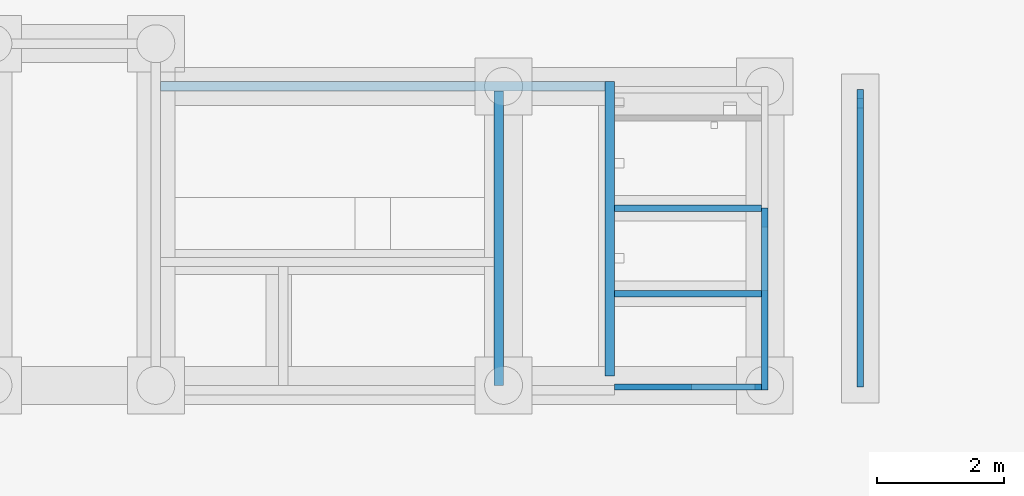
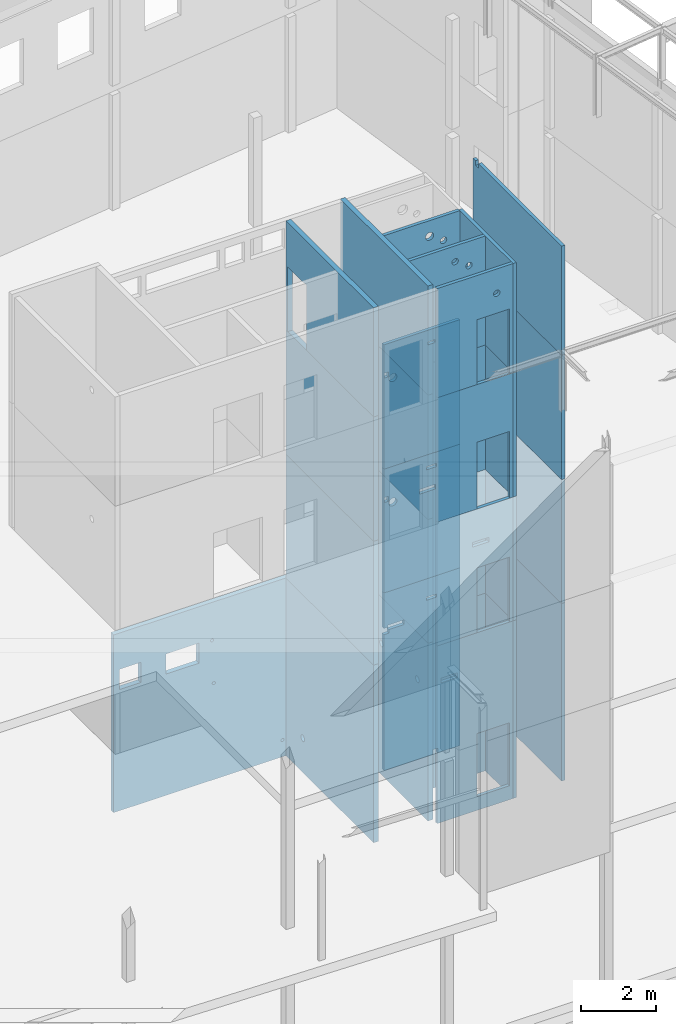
# One storey, part 75 of 82: 29 walls.
"""IFC2X3 building model written with IfcOpenShell, lengths in millimetres."""

from ifc_helpers import new_model, si_unit, frame, frame_2d, origin_with_axes, place, context, subcontext, project, spatial, polyline, rectangle, circle, outline, extrude, boolean, material, layer, layer_set, layer_usage, type_object, element, save


model = new_model("IFC2X3")

# Units and contexts
model_context = context("Model", 3, precision=1e-05, world=origin_with_axes())
body_context = subcontext(model_context, "Body", "Model", "MODEL_VIEW")
ifc_project = project(units=[si_unit("LENGTHUNIT", "METRE", prefix="MILLI"), si_unit("AREAUNIT", "SQUARE_METRE"), si_unit("VOLUMEUNIT", "CUBIC_METRE"), si_unit("MASSUNIT", "GRAM", prefix="KILO"), si_unit("TIMEUNIT", "SECOND"), si_unit("PLANEANGLEUNIT", "RADIAN"), si_unit("SOLIDANGLEUNIT", "STERADIAN"), si_unit("THERMODYNAMICTEMPERATUREUNIT", "DEGREE_CELSIUS"), si_unit("LUMINOUSINTENSITYUNIT", "LUMEN")], contexts=[model_context])

# Site, building, storey
site_placement = place(None, origin_with_axes())
site = spatial("IfcSite", under=ifc_project, at=site_placement, Name="Undefined", CompositionType="ELEMENT")
building_placement = place(site_placement, origin_with_axes())
building = spatial("IfcBuilding", under=site, at=building_placement, Name="Undefined", CompositionType="ELEMENT")
storey_placement = place(building_placement, origin_with_axes())
storey = spatial("IfcBuildingStorey", under=building, at=storey_placement, Name="Undefined", CompositionType="ELEMENT", Elevation=0.0)

# Walls
ifc_material = material(Name="CONCRETE/C25/30")
ifc_layer_1 = layer(ifc_material, 150.0)
ifc_layer_set_1 = layer_set([ifc_layer_1], Name="Wall: Insitu CONCRETE/C25/30")
ifc_layer_usage_1 = layer_usage(ifc_layer_set_1, "AXIS2", "POSITIVE", -75.0)
wall_type_1 = type_object("IfcWallType", Name="4025*150", PredefinedType="NOTDEFINED")
wall_1_placement = place(storey_placement, frame((56924.9999999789, 14099.9999999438, 9305.0), z_axis=(0.0, 0.0, 1.0), x_axis=(-2.77555756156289e-17, -1.0, 0.0)))
element("IfcWallStandardCase", 1, at=wall_1_placement, inside=storey, type_object=wall_type_1, material=ifc_layer_usage_1, Name="VOILE_15CM", ObjectType="4025*150", context=body_context, shape_type="SweptSolid", body=[
    extrude(rectangle(XDim=4649.99999996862, YDim=150.0, at=frame_2d((0.0, 2324.99999998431), x_axis=(0.0, -1.0))), frame((0.0, 0.0, 0.0), z_axis=(0.0, 0.0, 1.0), x_axis=(-2.77555756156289e-17, -1.0, 0.0)), (0.0, 0.0, 1.0), 4025.0),
])
ifc_layer_usage_2 = layer_usage(ifc_layer_set_1, "AXIS2", "POSITIVE", -75.0)
wall_2_placement = place(storey_placement, frame((55171.3765564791, 13949.9999999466, 9305.0), z_axis=(0.0, 0.0, 1.0), x_axis=(-2.77555756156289e-17, -1.0, 0.0)))
element("IfcWallStandardCase", 2, at=wall_2_placement, inside=storey, type_object=wall_type_1, material=ifc_layer_usage_2, Name="VOILE_15CM", ObjectType="4025*150", context=body_context, shape_type="SweptSolid", body=[
    extrude(rectangle(XDim=4649.99999996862, YDim=150.0, at=frame_2d((0.0, 2324.99999998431), x_axis=(0.0, -1.0))), frame((0.0, 0.0, 0.0), z_axis=(0.0, 0.0, 1.0), x_axis=(-2.77555756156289e-17, -1.0, 0.0)), (0.0, 0.0, 1.0), 4025.0),
])
ifc_layer_usage_3 = layer_usage(ifc_layer_set_1, "AXIS2", "POSITIVE", -75.0)
wall_type_2 = type_object("IfcWallType", Name="4005*150", PredefinedType="NOTDEFINED")
wall_3_placement = place(storey_placement, frame((56924.9999999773, 14099.9999999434, 5300.0), z_axis=(0.0, 0.0, 1.0), x_axis=(-2.77555756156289e-17, -1.0, 0.0)))
element("IfcWallStandardCase", 3, at=wall_3_placement, inside=storey, type_object=wall_type_2, material=ifc_layer_usage_3, Name="VOILE_15CM", ObjectType="4005*150", context=body_context, shape_type="SweptSolid", body=[
    extrude(rectangle(XDim=4649.99999996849, YDim=150.0, at=frame_2d((0.0, 2324.99999998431), x_axis=(0.0, -1.0))), frame((0.0, 0.0, 0.0), z_axis=(0.0, 0.0, 1.0), x_axis=(-2.77555756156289e-17, -1.0, 0.0)), (0.0, 0.0, 1.0), 4005.0),
])
ifc_layer_usage_4 = layer_usage(ifc_layer_set_1, "AXIS2", "POSITIVE", -75.0)
wall_4_placement = place(storey_placement, frame((55171.3765564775, 13949.9999999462, 5300.0), z_axis=(0.0, 0.0, 1.0), x_axis=(-2.77555756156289e-17, -1.0, 0.0)))
element("IfcWallStandardCase", 4, at=wall_4_placement, inside=storey, type_object=wall_type_2, material=ifc_layer_usage_4, Name="VOILE_15CM", ObjectType="4005*150", context=body_context, shape_type="SweptSolid", body=[
    extrude(rectangle(XDim=4649.99999996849, YDim=150.0, at=frame_2d((0.0, 2324.99999998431), x_axis=(0.0, -1.0))), frame((0.0, 0.0, 0.0), z_axis=(0.0, 0.0, 1.0), x_axis=(-2.77555756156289e-17, -1.0, 0.0)), (0.0, 0.0, 1.0), 4005.0),
])
ifc_layer_usage_5 = layer_usage(ifc_layer_set_1, "AXIS2", "POSITIVE", -75.0)
wall_type_3 = type_object("IfcWallType", Name="3530*150", PredefinedType="NOTDEFINED")
wall_5_placement = place(storey_placement, frame((56924.9999999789, 14099.9999999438, 13330.0), z_axis=(0.0, 0.0, 1.0), x_axis=(-2.77555756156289e-17, -1.0, 0.0)))
element("IfcWallStandardCase", 5, at=wall_5_placement, inside=storey, type_object=wall_type_3, material=ifc_layer_usage_5, Name="VOILE_15CM", ObjectType="3530*150", context=body_context, shape_type="SweptSolid", body=[
    extrude(rectangle(XDim=4649.99999996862, YDim=150.0, at=frame_2d((0.0, 2324.99999998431), x_axis=(0.0, -1.0))), frame((0.0, 0.0, 0.0), z_axis=(0.0, 0.0, 1.0), x_axis=(-2.77555756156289e-17, -1.0, 0.0)), (0.0, 0.0, 1.0), 3530.0),
])
ifc_layer_usage_6 = layer_usage(ifc_layer_set_1, "AXIS2", "POSITIVE", -75.0)
wall_6_placement = place(storey_placement, frame((55171.3765564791, 13949.9999999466, 13330.0), z_axis=(0.0, 0.0, 1.0), x_axis=(-2.77555756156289e-17, -1.0, 0.0)))
element("IfcWallStandardCase", 6, at=wall_6_placement, inside=storey, type_object=wall_type_3, material=ifc_layer_usage_6, Name="VOILE_15CM", ObjectType="3530*150", context=body_context, shape_type="CSG", body=[
    boolean("DIFFERENCE", extrude(rectangle(XDim=4649.99999996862, YDim=150.0, at=frame_2d((0.0, 2324.99999998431), x_axis=(0.0, -1.0))), frame((0.0, 0.0, 0.0), z_axis=(0.0, 0.0, 1.0), x_axis=(-2.77555756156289e-17, -1.0, 0.0)), (0.0, 0.0, 1.0), 3530.0), extrude(outline(polyline([(5.17284206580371e-08, 4.49290382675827e-10), (2100.0, 5.82076609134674e-11), (2100.0, 1000.00000000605), (0.0, 1000.00000000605), (5.17284206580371e-08, 4.49290382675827e-10)])), frame((100.000034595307, 84.9999999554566, 2100.0), z_axis=(-2.77555756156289e-17, -1.0, 0.0), x_axis=(0.0, -6.50000002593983e-08, -0.999999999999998)), (0.0, 0.0, 1.0), 170.0)),
])
ifc_layer_2 = layer(ifc_material, 100.0)
ifc_layer_set_2 = layer_set([ifc_layer_2], Name="Wall: Insitu CONCRETE/C25/30")
ifc_layer_usage_7 = layer_usage(ifc_layer_set_2, "AXIS2", "POSITIVE", -50.0)
wall_type_4 = type_object("IfcWallType", Name="3530*100", PredefinedType="NOTDEFINED")
wall_7_placement = place(storey_placement, frame((56999.999999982, 12099.9999999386, 13330.0), z_axis=(0.0, 0.0, 1.0), x_axis=(1.0, 0.0, 0.0)))
element("IfcWallStandardCase", 7, at=wall_7_placement, inside=storey, type_object=wall_type_4, material=ifc_layer_usage_7, Name="VOILE_10CM", ObjectType="3530*100", context=body_context, shape_type="CSG", body=[
    boolean("DIFFERENCE", boolean("DIFFERENCE", extrude(rectangle(XDim=2324.99999997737, YDim=100.0, at=frame_2d((0.0, 1162.49999998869), x_axis=(0.0, -1.0))), frame((0.0, 0.0, 0.0), z_axis=(0.0, 0.0, 1.0), x_axis=(-2.77555756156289e-17, -1.0, 0.0)), (0.0, 0.0, 1.0), 3530.0), extrude(circle(Radius=100.0, at=frame_2d((5.17284206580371e-08, 4.49290382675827e-10), x_axis=(1.0, 0.0))), frame((1824.8916930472, -60.0, 2744.58053279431), z_axis=(0.0, 1.0, 0.0), x_axis=(-1.0, 0.0, 0.0)), (0.0, 0.0, 1.0), 120.0)), extrude(circle(Radius=125.0, at=frame_2d((5.17284206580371e-08, 4.49290382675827e-10), x_axis=(1.0, 0.0))), frame((1400.08319085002, -60.0, 3020.00167537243), z_axis=(0.0, 1.0, 0.0), x_axis=(-1.0, 0.0, 0.0)), (0.0, 0.0, 1.0), 120.0)),
])
ifc_layer_usage_8 = layer_usage(ifc_layer_set_2, "AXIS2", "POSITIVE", -50.0)
wall_8_placement = place(storey_placement, frame((56999.9999999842, 10749.4683793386, 13330.0), z_axis=(0.0, 0.0, 1.0), x_axis=(1.0, 0.0, 0.0)))
element("IfcWallStandardCase", 8, at=wall_8_placement, inside=storey, type_object=wall_type_4, material=ifc_layer_usage_8, Name="VOILE_10CM", ObjectType="3530*100", context=body_context, shape_type="CSG", body=[
    boolean("DIFFERENCE", boolean("DIFFERENCE", extrude(rectangle(XDim=2324.99999997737, YDim=100.0, at=frame_2d((0.0, 1162.49999998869), x_axis=(0.0, -1.0))), frame((0.0, 0.0, 0.0), z_axis=(0.0, 0.0, 1.0), x_axis=(-2.77555756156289e-17, -1.0, 0.0)), (0.0, 0.0, 1.0), 3530.0), extrude(circle(Radius=100.0, at=frame_2d((5.17284206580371e-08, 4.49290382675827e-10), x_axis=(1.0, 0.0))), frame((1400.08319085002, -60.0, 3020.00167537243), z_axis=(0.0, 1.0, 0.0), x_axis=(-1.0, 0.0, 0.0)), (0.0, 0.0, 1.0), 120.0)), extrude(circle(Radius=100.0, at=frame_2d((5.17284206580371e-08, 4.49290382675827e-10), x_axis=(1.0, 0.0))), frame((1824.8916930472, -60.0, 2744.58053279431), z_axis=(0.0, 1.0, 0.0), x_axis=(-1.0, 0.0, 0.0)), (0.0, 0.0, 1.0), 120.0)),
])
ifc_layer_usage_9 = layer_usage(ifc_layer_set_2, "AXIS2", "POSITIVE", -50.0)
wall_9_placement = place(storey_placement, frame((59324.9999999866, 9274.99999993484, 13330.0), z_axis=(0.0, 0.0, 1.0), x_axis=(-1.0, 0.0, 0.0)))
element("IfcWallStandardCase", 9, at=wall_9_placement, inside=storey, type_object=wall_type_4, material=ifc_layer_usage_9, Name="VOILE_10CM", ObjectType="3530*100", context=body_context, shape_type="CSG", body=[
    boolean("DIFFERENCE", boolean("DIFFERENCE", extrude(rectangle(XDim=2324.99999997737, YDim=100.0, at=frame_2d((0.0, 1162.49999998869), x_axis=(0.0, -1.0))), frame((0.0, 0.0, 0.0), z_axis=(0.0, 0.0, 1.0), x_axis=(-2.77555756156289e-17, -1.0, 0.0)), (0.0, 0.0, 1.0), 3530.0), extrude(circle(Radius=100.0, at=frame_2d((5.17284206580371e-08, 4.49290382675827e-10), x_axis=(1.0, 0.0))), frame((500.108306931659, -60.0, 2744.5804901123), z_axis=(0.0, 1.0, 0.0), x_axis=(-1.0, 0.0, 0.0)), (0.0, 0.0, 1.0), 120.0)), extrude(outline(polyline([(5.17284206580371e-08, 4.49290382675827e-10), (2100.0, 5.82076609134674e-11), (2100.0, 1000.00000000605), (0.0, 1000.00000000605), (5.17284206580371e-08, 4.49290382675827e-10)])), frame((1105.21800891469, -59.9999998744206, 2100.0), z_axis=(0.0, 1.0, 0.0), x_axis=(0.0, -6.50000002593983e-08, -0.999999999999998)), (0.0, 0.0, 1.0), 120.0)),
])
ifc_layer_usage_10 = layer_usage(ifc_layer_set_2, "AXIS2", "POSITIVE", -50.0)
wall_10_placement = place(storey_placement, frame((59374.9999999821, 12099.9998288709, 13330.0), z_axis=(0.0, 0.0, 1.0), x_axis=(-2.77555756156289e-17, -1.0, 0.0)))
element("IfcWallStandardCase", 10, at=wall_10_placement, inside=storey, type_object=wall_type_4, material=ifc_layer_usage_10, Name="VOILE_10CM", ObjectType="3530*100", context=body_context, shape_type="CSG", body=[
    boolean("DIFFERENCE", extrude(rectangle(XDim=2874.80300000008, YDim=100.0, at=frame_2d((0.0, 1437.40150000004), x_axis=(0.0, -1.0))), frame((0.0, 0.0, 0.0), z_axis=(0.0, 0.0, 1.0), x_axis=(-2.77555756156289e-17, -1.0, 0.0)), (0.0, 0.0, 1.0), 3530.0), extrude(outline(polyline([(5.17284206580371e-08, 4.49290382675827e-10), (2160.0, 1.09139364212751e-11), (2160.0, 1000.00000000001), (0.0, 1000.00000000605), (5.17284206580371e-08, 4.49290382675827e-10)])), frame((1300.53144970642, -60.0000000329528, 2160.0), z_axis=(0.0, 1.0, 0.0), x_axis=(0.0, -6.50000002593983e-08, -0.999999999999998)), (0.0, 0.0, 1.0), 120.0)),
])
ifc_layer_usage_11 = layer_usage(ifc_layer_set_2, "AXIS2", "POSITIVE", -50.0)
wall_11_placement = place(storey_placement, frame((60884.2827716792, 13974.9999999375, 13330.0), z_axis=(0.0, 0.0, 1.0), x_axis=(-2.77555756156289e-17, -1.0, 0.0)))
element("IfcWallStandardCase", 11, at=wall_11_placement, inside=storey, type_object=wall_type_4, material=ifc_layer_usage_11, Name="VOILE_10CM", ObjectType="3530*100", context=body_context, shape_type="CSG", body=[
    boolean("DIFFERENCE", extrude(rectangle(XDim=4700.00000000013, YDim=100.0, at=frame_2d((0.0, 2350.00000000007), x_axis=(0.0, -1.0))), frame((0.0, 0.0, 0.0), z_axis=(0.0, 0.0, 1.0), x_axis=(-2.77555756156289e-17, -1.0, 0.0)), (0.0, 0.0, 1.0), 3530.0), extrude(rectangle(XDim=150.0, YDim=150.0, at=frame_2d((5.17284206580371e-08, 4.49290382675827e-10), x_axis=(1.0, 0.0))), frame((213.999968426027, -60.0, 3454.99999998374), z_axis=(0.0, 1.0, 0.0), x_axis=(-1.0, 0.0, 0.0)), (0.0, 0.0, 1.0), 120.0)),
])
ifc_layer_usage_12 = layer_usage(ifc_layer_set_2, "AXIS2", "POSITIVE", -50.0)
wall_type_5 = type_object("IfcWallType", Name="4025*100", PredefinedType="NOTDEFINED")
wall_12_placement = place(storey_placement, frame((56999.999999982, 12099.9999999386, 9305.0), z_axis=(0.0, 0.0, 1.0), x_axis=(1.0, 0.0, 0.0)))
element("IfcWallStandardCase", 12, at=wall_12_placement, inside=storey, type_object=wall_type_5, material=ifc_layer_usage_12, Name="VOILE_10CM", ObjectType="4025*100", context=body_context, shape_type="CSG", body=[
    boolean("DIFFERENCE", boolean("DIFFERENCE", boolean("DIFFERENCE", extrude(rectangle(XDim=2324.99999997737, YDim=100.0, at=frame_2d((0.0, 1162.49999998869), x_axis=(0.0, -1.0))), frame((0.0, 0.0, 0.0), z_axis=(0.0, 0.0, 1.0), x_axis=(-2.77555756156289e-17, -1.0, 0.0)), (0.0, 0.0, 1.0), 4025.0), extrude(circle(Radius=125.0, at=frame_2d((5.17284206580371e-08, 4.49290382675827e-10), x_axis=(1.0, 0.0))), frame((273.570217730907, -60.0, 2870.00038146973), z_axis=(0.0, 1.0, 0.0), x_axis=(-1.0, 0.0, 0.0)), (0.0, 0.0, 1.0), 120.0)), extrude(rectangle(XDim=120.0, YDim=160.0, at=frame_2d((5.17284206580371e-08, 4.49290382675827e-10), x_axis=(1.0, 0.0))), frame((73.9995619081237, -60.0, 3022.02465057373), z_axis=(0.0, 1.0, 0.0), x_axis=(-1.0, 0.0, 0.0)), (0.0, 0.0, 1.0), 120.0)), extrude(rectangle(XDim=220.0, YDim=100.0, at=frame_2d((5.17284206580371e-08, 4.49290382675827e-10), x_axis=(1.0, 0.0))), frame((1461.6483745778, -60.0, 3599.62275695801), z_axis=(0.0, 1.0, 0.0), x_axis=(-1.0, 0.0, 0.0)), (0.0, 0.0, 1.0), 120.0)),
])
ifc_layer_usage_13 = layer_usage(ifc_layer_set_2, "AXIS2", "POSITIVE", -50.0)
wall_13_placement = place(storey_placement, frame((56999.9999999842, 10749.4683793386, 9305.0), z_axis=(0.0, 0.0, 1.0), x_axis=(1.0, 0.0, 0.0)))
element("IfcWallStandardCase", 13, at=wall_13_placement, inside=storey, type_object=wall_type_5, material=ifc_layer_usage_13, Name="VOILE_10CM", ObjectType="4025*100", context=body_context, shape_type="CSG", body=[
    boolean("DIFFERENCE", extrude(rectangle(XDim=2324.99999997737, YDim=100.0, at=frame_2d((0.0, 1162.49999998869), x_axis=(0.0, -1.0))), frame((0.0, 0.0, 0.0), z_axis=(0.0, 0.0, 1.0), x_axis=(-2.77555756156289e-17, -1.0, 0.0)), (0.0, 0.0, 1.0), 4025.0), extrude(circle(Radius=100.0, at=frame_2d((5.17284206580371e-08, 4.49290382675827e-10), x_axis=(1.0, 0.0))), frame((273.570217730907, -60.0, 2870.00038146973), z_axis=(0.0, 1.0, 0.0), x_axis=(-1.0, 0.0, 0.0)), (0.0, 0.0, 1.0), 120.0)),
])
ifc_layer_usage_14 = layer_usage(ifc_layer_set_2, "AXIS2", "POSITIVE", -50.0)
wall_14_placement = place(storey_placement, frame((60884.2827716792, 13974.9999999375, 9305.0), z_axis=(0.0, 0.0, 1.0), x_axis=(-2.77555756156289e-17, -1.0, 0.0)))
element("IfcWallStandardCase", 14, at=wall_14_placement, inside=storey, type_object=wall_type_5, material=ifc_layer_usage_14, Name="VOILE_10CM", ObjectType="4025*100", context=body_context, shape_type="SweptSolid", body=[
    extrude(rectangle(XDim=4700.00000000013, YDim=100.0, at=frame_2d((0.0, 2350.00000000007), x_axis=(0.0, -1.0))), frame((0.0, 0.0, 0.0), z_axis=(0.0, 0.0, 1.0), x_axis=(-2.77555756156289e-17, -1.0, 0.0)), (0.0, 0.0, 1.0), 4025.0),
])
ifc_layer_usage_15 = layer_usage(ifc_layer_set_2, "AXIS2", "POSITIVE", -50.0)
wall_15_placement = place(storey_placement, frame((59374.9999999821, 12099.9998288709, 9305.0), z_axis=(0.0, 0.0, 1.0), x_axis=(-2.77555756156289e-17, -1.0, 0.0)))
element("IfcWallStandardCase", 15, at=wall_15_placement, inside=storey, type_object=wall_type_5, material=ifc_layer_usage_15, Name="VOILE_10CM", ObjectType="4025*100", context=body_context, shape_type="CSG", body=[
    boolean("DIFFERENCE", extrude(rectangle(XDim=2874.80300000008, YDim=100.0, at=frame_2d((0.0, 1437.40150000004), x_axis=(0.0, -1.0))), frame((0.0, 0.0, 0.0), z_axis=(0.0, 0.0, 1.0), x_axis=(-2.77555756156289e-17, -1.0, 0.0)), (0.0, 0.0, 1.0), 4025.0), extrude(outline(polyline([(5.17284206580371e-08, 4.49290382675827e-10), (2200.0, 1.09139364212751e-11), (2200.0, 1000.00000000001), (0.0, 1000.00000000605), (5.17284206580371e-08, 4.49290382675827e-10)])), frame((1300.53144970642, -60.0000000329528, 2200.0), z_axis=(0.0, 1.0, 0.0), x_axis=(0.0, -6.50000002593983e-08, -0.999999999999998)), (0.0, 0.0, 1.0), 120.0)),
])
ifc_layer_usage_16 = layer_usage(ifc_layer_set_2, "AXIS2", "POSITIVE", -50.0)
wall_16_placement = place(storey_placement, frame((59324.9999999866, 9274.99999993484, 9305.0), z_axis=(0.0, 0.0, 1.0), x_axis=(-1.0, 0.0, 0.0)))
element("IfcWallStandardCase", 16, at=wall_16_placement, inside=storey, type_object=wall_type_5, material=ifc_layer_usage_16, Name="VOILE_10CM", ObjectType="4025*100", context=body_context, shape_type="CSG", body=[
    boolean("DIFFERENCE", extrude(rectangle(XDim=2324.99999997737, YDim=100.0, at=frame_2d((0.0, 1162.49999998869), x_axis=(0.0, -1.0))), frame((0.0, 0.0, 0.0), z_axis=(0.0, 0.0, 1.0), x_axis=(-2.77555756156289e-17, -1.0, 0.0)), (0.0, 0.0, 1.0), 4025.0), extrude(outline(polyline([(5.17284206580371e-08, 4.49290382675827e-10), (2160.0, 1.09139364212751e-11), (2160.0, 1000.00000000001), (0.0, 1000.00000000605), (5.17284206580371e-08, 4.49290382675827e-10)])), frame((1105.21800891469, -59.9999998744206, 2160.0), z_axis=(0.0, 1.0, 0.0), x_axis=(0.0, -6.50000002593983e-08, -0.999999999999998)), (0.0, 0.0, 1.0), 120.0)),
])
ifc_layer_usage_17 = layer_usage(ifc_layer_set_2, "AXIS2", "POSITIVE", -50.0)
wall_type_6 = type_object("IfcWallType", Name="4005*100", PredefinedType="NOTDEFINED")
wall_17_placement = place(storey_placement, frame((56999.9999999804, 12099.9999999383, 5300.0), z_axis=(0.0, 0.0, 1.0), x_axis=(1.0, 0.0, 0.0)))
element("IfcWallStandardCase", 17, at=wall_17_placement, inside=storey, type_object=wall_type_6, material=ifc_layer_usage_17, Name="VOILE_10CM", ObjectType="4005*100", context=body_context, shape_type="CSG", body=[
    boolean("DIFFERENCE", boolean("DIFFERENCE", boolean("DIFFERENCE", boolean("DIFFERENCE", extrude(rectangle(XDim=2325.00000000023, YDim=100.0, at=frame_2d((0.0, 1162.49999998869), x_axis=(0.0, -1.0))), frame((0.0, 0.0, 0.0), z_axis=(0.0, 0.0, 1.0), x_axis=(-2.77555756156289e-17, -1.0, 0.0)), (0.0, 0.0, 1.0), 4005.0), extrude(circle(Radius=125.0, at=frame_2d((5.17284206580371e-08, 4.49290382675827e-10), x_axis=(1.0, 0.0))), frame((274.085201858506, -60.0, 2850.00076293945), z_axis=(0.0, 1.0, 0.0), x_axis=(-1.0, 0.0, 0.0)), (0.0, 0.0, 1.0), 120.0)), extrude(rectangle(XDim=120.0, YDim=160.0, at=frame_2d((5.17284206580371e-08, 4.49290382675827e-10), x_axis=(1.0, 0.0))), frame((74.5307584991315, -60.0, 3002.34355926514), z_axis=(0.0, 1.0, 0.0), x_axis=(-1.0, 0.0, 0.0)), (0.0, 0.0, 1.0), 120.0)), extrude(rectangle(XDim=500.0, YDim=150.0, at=frame_2d((5.17284206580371e-08, 4.49290382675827e-10), x_axis=(1.0, 0.0))), frame((1335.99780266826, -60.0, 2890.00087428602), z_axis=(0.0, 1.0, 0.0), x_axis=(-1.0, 0.0, 0.0)), (0.0, 0.0, 1.0), 120.0)), extrude(rectangle(XDim=300.0, YDim=100.0, at=frame_2d((5.17284206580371e-08, 4.49290382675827e-10), x_axis=(1.0, 0.0))), frame((1461.64837457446, -60.0, 3579.62275695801), z_axis=(0.0, 1.0, 0.0), x_axis=(-1.0, 0.0, 0.0)), (0.0, 0.0, 1.0), 120.0)),
])
ifc_layer_usage_18 = layer_usage(ifc_layer_set_2, "AXIS2", "POSITIVE", -50.0)
wall_18_placement = place(storey_placement, frame((56999.9999999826, 10749.4683793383, 5300.0), z_axis=(0.0, 0.0, 1.0), x_axis=(1.0, 0.0, 0.0)))
element("IfcWallStandardCase", 18, at=wall_18_placement, inside=storey, type_object=wall_type_6, material=ifc_layer_usage_18, Name="VOILE_10CM", ObjectType="4005*100", context=body_context, shape_type="CSG", body=[
    boolean("DIFFERENCE", boolean("DIFFERENCE", extrude(rectangle(XDim=2325.00000000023, YDim=100.0, at=frame_2d((0.0, 1162.49999998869), x_axis=(0.0, -1.0))), frame((0.0, 0.0, 0.0), z_axis=(0.0, 0.0, 1.0), x_axis=(-2.77555756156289e-17, -1.0, 0.0)), (0.0, 0.0, 1.0), 4005.0), extrude(circle(Radius=100.0, at=frame_2d((5.17284206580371e-08, 4.49290382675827e-10), x_axis=(1.0, 0.0))), frame((274.085201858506, -60.0, 2850.00076293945), z_axis=(0.0, 1.0, 0.0), x_axis=(-1.0, 0.0, 0.0)), (0.0, 0.0, 1.0), 120.0)), extrude(rectangle(XDim=500.0, YDim=150.0, at=frame_2d((5.17284206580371e-08, 4.49290382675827e-10), x_axis=(1.0, 0.0))), frame((1335.99780266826, -60.0, 2890.00087428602), z_axis=(0.0, 1.0, 0.0), x_axis=(-1.0, 0.0, 0.0)), (0.0, 0.0, 1.0), 120.0)),
])
ifc_layer_usage_19 = layer_usage(ifc_layer_set_2, "AXIS2", "POSITIVE", -50.0)
wall_19_placement = place(storey_placement, frame((60884.2827716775, 13974.9999999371, 5300.0), z_axis=(0.0, 0.0, 1.0), x_axis=(-2.77555756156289e-17, -1.0, 0.0)))
element("IfcWallStandardCase", 19, at=wall_19_placement, inside=storey, type_object=wall_type_6, material=ifc_layer_usage_19, Name="VOILE_10CM", ObjectType="4005*100", context=body_context, shape_type="SweptSolid", body=[
    extrude(rectangle(XDim=4700.0, YDim=100.0, at=frame_2d((0.0, 2350.00000000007), x_axis=(0.0, -1.0))), frame((0.0, 0.0, 0.0), z_axis=(0.0, 0.0, 1.0), x_axis=(-2.77555756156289e-17, -1.0, 0.0)), (0.0, 0.0, 1.0), 4005.0),
])
ifc_layer_usage_20 = layer_usage(ifc_layer_set_2, "AXIS2", "POSITIVE", -50.0)
wall_20_placement = place(storey_placement, frame((59374.9999999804, 12099.9998288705, 5300.0), z_axis=(0.0, 0.0, 1.0), x_axis=(-2.77555756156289e-17, -1.0, 0.0)))
element("IfcWallStandardCase", 20, at=wall_20_placement, inside=storey, type_object=wall_type_6, material=ifc_layer_usage_20, Name="VOILE_10CM", ObjectType="4005*100", context=body_context, shape_type="CSG", body=[
    boolean("DIFFERENCE", extrude(rectangle(XDim=2874.803, YDim=100.0, at=frame_2d((0.0, 1437.40150000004), x_axis=(0.0, -1.0))), frame((0.0, 0.0, 0.0), z_axis=(0.0, 0.0, 1.0), x_axis=(-2.77555756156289e-17, -1.0, 0.0)), (0.0, 0.0, 1.0), 4005.0), extrude(outline(polyline([(5.17284206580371e-08, 4.49290382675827e-10), (2160.0, 1.09139364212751e-11), (2160.0, 1000.00000000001), (0.0, 1000.00000000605), (5.17284206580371e-08, 4.49290382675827e-10)])), frame((1300.53144970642, -60.0000000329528, 2160.0), z_axis=(0.0, 1.0, 0.0), x_axis=(0.0, -6.50000002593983e-08, -0.999999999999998)), (0.0, 0.0, 1.0), 120.0)),
])
ifc_layer_usage_21 = layer_usage(ifc_layer_set_2, "AXIS2", "POSITIVE", -50.0)
wall_21_placement = place(storey_placement, frame((59324.9999999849, 9274.99999993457, 5300.0), z_axis=(0.0, 0.0, 1.0), x_axis=(-1.0, 0.0, 0.0)))
element("IfcWallStandardCase", 21, at=wall_21_placement, inside=storey, type_object=wall_type_6, material=ifc_layer_usage_21, Name="VOILE_10CM", ObjectType="4005*100", context=body_context, shape_type="CSG", body=[
    boolean("DIFFERENCE", boolean("DIFFERENCE", extrude(rectangle(XDim=2325.00000000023, YDim=100.0, at=frame_2d((0.0, 1162.49999998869), x_axis=(0.0, -1.0))), frame((0.0, 0.0, 0.0), z_axis=(0.0, 0.0, 1.0), x_axis=(-2.77555756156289e-17, -1.0, 0.0)), (0.0, 0.0, 1.0), 4005.0), extrude(rectangle(XDim=500.0, YDim=150.0, at=frame_2d((5.17284206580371e-08, 4.49290382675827e-10), x_axis=(1.0, 0.0))), frame((989.002197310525, -60.0, 2890.00083160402), z_axis=(0.0, 1.0, 0.0), x_axis=(-1.0, 0.0, 0.0)), (0.0, 0.0, 1.0), 120.0)), extrude(outline(polyline([(5.17284206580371e-08, 4.49290382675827e-10), (2100.0, 5.82076609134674e-11), (2100.0, 1000.00000000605), (0.0, 1000.00000000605), (5.17284206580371e-08, 4.49290382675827e-10)])), frame((1105.21800891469, -59.9999998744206, 2100.0), z_axis=(0.0, 1.0, 0.0), x_axis=(0.0, -6.50000002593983e-08, -0.999999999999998)), (0.0, 0.0, 1.0), 120.0)),
])
ifc_layer_usage_22 = layer_usage(ifc_layer_set_1, "AXIS2", "POSITIVE", -75.0)
wall_type_7 = type_object("IfcWallType", Name="5750*150", PredefinedType="NOTDEFINED")
wall_22_placement = place(storey_placement, frame((56924.9999999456, 14099.9999999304, -450.0), z_axis=(0.0, 0.0, 1.0), x_axis=(-2.77555756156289e-17, -1.0, 0.0)))
element("IfcWallStandardCase", 22, at=wall_22_placement, inside=storey, type_object=wall_type_7, material=ifc_layer_usage_22, Name="VOILE_15CM", ObjectType="5750*150", context=body_context, shape_type="CSG", body=[
    boolean("DIFFERENCE", boolean("DIFFERENCE", boolean("DIFFERENCE", extrude(rectangle(XDim=4650.00000000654, YDim=150.0, at=frame_2d((0.0, 2324.99999998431), x_axis=(0.0, -1.0))), frame((0.0, 0.0, 0.0), z_axis=(0.0, 0.0, 1.0), x_axis=(-2.77555756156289e-17, -1.0, 0.0)), (0.0, 0.0, 1.0), 5750.0), extrude(circle(Radius=100.0, at=frame_2d((5.17284206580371e-08, 4.49290382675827e-10), x_axis=(1.0, 0.0))), frame((4087.76639193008, -84.9999999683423, 4249.99953460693), z_axis=(0.0, 1.0, 0.0), x_axis=(-1.0, 0.0, 0.0)), (0.0, 0.0, 1.0), 170.0)), extrude(circle(Radius=100.0, at=frame_2d((5.17284206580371e-08, 4.49290382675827e-10), x_axis=(1.0, 0.0))), frame((2180.00004991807, -84.9999999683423, 4249.99953460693), z_axis=(0.0, 1.0, 0.0), x_axis=(-1.0, 0.0, 0.0)), (0.0, 0.0, 1.0), 170.0)), extrude(circle(Radius=100.0, at=frame_2d((5.17284206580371e-08, 4.49290382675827e-10), x_axis=(1.0, 0.0))), frame((1287.49964936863, -84.9999999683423, 4249.99953460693), z_axis=(0.0, 1.0, 0.0), x_axis=(-1.0, 0.0, 0.0)), (0.0, 0.0, 1.0), 170.0)),
])
ifc_layer_usage_23 = layer_usage(ifc_layer_set_1, "AXIS2", "POSITIVE", -75.0)
wall_23_placement = place(storey_placement, frame((55171.3765564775, 13949.9999999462, -450.0), z_axis=(0.0, 0.0, 1.0), x_axis=(-2.77555756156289e-17, -1.0, 0.0)))
element("IfcWallStandardCase", 23, at=wall_23_placement, inside=storey, type_object=wall_type_7, material=ifc_layer_usage_23, Name="VOILE_15CM", ObjectType="5750*150", context=body_context, shape_type="CSG", body=[
    boolean("DIFFERENCE", extrude(rectangle(XDim=4650.00000000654, YDim=150.0, at=frame_2d((0.0, 2324.99999998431), x_axis=(0.0, -1.0))), frame((0.0, 0.0, 0.0), z_axis=(0.0, 0.0, 1.0), x_axis=(-2.77555756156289e-17, -1.0, 0.0)), (0.0, 0.0, 1.0), 5750.0), extrude(circle(Radius=100.0, at=frame_2d((5.17284206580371e-08, 4.49290382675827e-10), x_axis=(1.0, 0.0))), frame((894.064743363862, -85.0, 1110.59046936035), z_axis=(0.0, 1.0, 0.0), x_axis=(-1.0, 0.0, 0.0)), (0.0, 0.0, 1.0), 170.0)),
])
ifc_layer_usage_24 = layer_usage(ifc_layer_set_1, "AXIS2", "POSITIVE", -75.0)
wall_24_placement = place(storey_placement, frame((56999.9999999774, 14024.9999999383, -450.0), z_axis=(0.0, 0.0, 1.0), x_axis=(-1.0, 0.0, 0.0)))
element("IfcWallStandardCase", 24, at=wall_24_placement, inside=storey, type_object=wall_type_7, material=ifc_layer_usage_24, Name="VOILE_15CM", ObjectType="5750*150", context=body_context, shape_type="CSG", body=[
    boolean("DIFFERENCE", boolean("DIFFERENCE", boolean("DIFFERENCE", boolean("DIFFERENCE", boolean("DIFFERENCE", boolean("DIFFERENCE", extrude(rectangle(XDim=7175.00000000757, YDim=150.0, at=frame_2d((0.0, 3587.50000000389), x_axis=(0.0, -1.0))), frame((0.0, 0.0, 0.0), z_axis=(0.0, 0.0, 1.0), x_axis=(-2.77555756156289e-17, -1.0, 0.0)), (0.0, 0.0, 1.0), 5750.0), extrude(circle(Radius=50.0, at=frame_2d((5.17284206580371e-08, 4.49290382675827e-10), x_axis=(1.0, 0.0))), frame((2008.34163218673, -85.0, 544.164085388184), z_axis=(0.0, 1.0, 0.0), x_axis=(-1.0, 0.0, 0.0)), (0.0, 0.0, 1.0), 170.0)), extrude(circle(Radius=150.0, at=frame_2d((5.17284206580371e-08, 4.49290382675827e-10), x_axis=(1.0, 0.0))), frame((568.207138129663, -85.0, 4250.00048828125), z_axis=(0.0, 1.0, 0.0), x_axis=(-1.0, 0.0, 0.0)), (0.0, 0.0, 1.0), 170.0)), extrude(circle(Radius=50.0, at=frame_2d((5.17284206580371e-08, 4.49290382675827e-10), x_axis=(1.0, 0.0))), frame((4108.99388129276, -85.0, 3123.52801513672), z_axis=(0.0, 1.0, 0.0), x_axis=(-1.0, 0.0, 0.0)), (0.0, 0.0, 1.0), 170.0)), extrude(circle(Radius=50.0, at=frame_2d((5.17284206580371e-08, 4.49290382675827e-10), x_axis=(1.0, 0.0))), frame((4161.03071724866, -85.0, 4524.31001663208), z_axis=(0.0, 1.0, 0.0), x_axis=(-1.0, 0.0, 0.0)), (0.0, 0.0, 1.0), 170.0)), extrude(rectangle(XDim=650.0, YDim=650.0, at=frame_2d((5.17284206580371e-08, 4.49290382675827e-10), x_axis=(1.0, 0.0))), frame((6665.00317414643, -85.0, 4249.99953460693), z_axis=(0.0, 1.0, 0.0), x_axis=(-1.0, 0.0, 0.0)), (0.0, 0.0, 1.0), 170.0)), extrude(rectangle(XDim=1000.0, YDim=650.0, at=frame_2d((5.17284206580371e-08, 4.49290382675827e-10), x_axis=(1.0, 0.0))), frame((5065.00470003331, -85.0, 4249.99953460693), z_axis=(0.0, 1.0, 0.0), x_axis=(-1.0, 0.0, 0.0)), (0.0, 0.0, 1.0), 170.0)),
])
ifc_layer_usage_25 = layer_usage(ifc_layer_set_2, "AXIS2", "POSITIVE", -50.0)
wall_type_8 = type_object("IfcWallType", Name="5750*100", PredefinedType="NOTDEFINED")
wall_25_placement = place(storey_placement, frame((59374.9999999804, 12099.9998288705, -450.0), z_axis=(0.0, 0.0, 1.0), x_axis=(-2.77555756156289e-17, -1.0, 0.0)))
element("IfcWallStandardCase", 25, at=wall_25_placement, inside=storey, type_object=wall_type_8, material=ifc_layer_usage_25, Name="VOILE_10CM", ObjectType="5750*100", context=body_context, shape_type="CSG", body=[
    boolean("DIFFERENCE", extrude(rectangle(XDim=2874.803, YDim=100.0, at=frame_2d((0.0, 1437.40150000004), x_axis=(0.0, -1.0))), frame((0.0, 0.0, 0.0), z_axis=(0.0, 0.0, 1.0), x_axis=(-2.77555756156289e-17, -1.0, 0.0)), (0.0, 0.0, 1.0), 5750.0), extrude(outline(polyline([(5.17284206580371e-08, 4.49290382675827e-10), (2100.0, 5.82076609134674e-11), (2100.0, 1000.00000000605), (0.0, 1000.00000000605), (5.17284206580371e-08, 4.49290382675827e-10)])), frame((1300.53144970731, -60.0000000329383, 2550.0), z_axis=(0.0, 1.0, 0.0), x_axis=(0.0, -6.50000002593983e-08, -0.999999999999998)), (0.0, 0.0, 1.0), 120.0)),
])
ifc_layer_usage_26 = layer_usage(ifc_layer_set_2, "AXIS2", "POSITIVE", -50.0)
wall_26_placement = place(storey_placement, frame((59324.9999999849, 9274.99999993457, -450.0), z_axis=(0.0, 0.0, 1.0), x_axis=(-1.0, 0.0, 0.0)))
element("IfcWallStandardCase", 26, at=wall_26_placement, inside=storey, type_object=wall_type_8, material=ifc_layer_usage_26, Name="VOILE_10CM", ObjectType="5750*100", context=body_context, shape_type="CSG", body=[
    boolean("DIFFERENCE", boolean("DIFFERENCE", boolean("DIFFERENCE", extrude(rectangle(XDim=2325.00000000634, YDim=100.0, at=frame_2d((0.0, 1162.49999998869), x_axis=(0.0, -1.0))), frame((0.0, 0.0, 0.0), z_axis=(0.0, 0.0, 1.0), x_axis=(-2.77555756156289e-17, -1.0, 0.0)), (0.0, 0.0, 1.0), 5750.0), extrude(rectangle(XDim=500.0, YDim=150.0, at=frame_2d((5.17284206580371e-08, 4.49290382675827e-10), x_axis=(1.0, 0.0))), frame((1956.00277714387, -60.0, 4589.99968719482), z_axis=(0.0, 1.0, 0.0), x_axis=(-1.0, 0.0, 0.0)), (0.0, 0.0, 1.0), 120.0)), extrude(outline(polyline([(5.17284206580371e-08, 4.49290382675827e-10), (2040.0, -2.7648638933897e-10), (2040.0, 999.999999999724), (0.0, 1000.00000000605), (5.17284206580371e-08, 4.49290382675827e-10)])), frame((1105.21800891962, -59.9999998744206, 2490.0), z_axis=(0.0, 1.0, 0.0), x_axis=(0.0, -6.50000002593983e-08, -0.999999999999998)), (0.0, 0.0, 1.0), 120.0)), extrude(rectangle(XDim=1000.0, YDim=105.0692008, at=frame_2d((5.17284206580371e-08, 4.49290382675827e-10), x_axis=(1.0, 0.0))), frame((605.218008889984, 149.999999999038, -52.5346004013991), z_axis=(-2.77555756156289e-17, -1.0, 0.0), x_axis=(1.0, 0.0, 0.0)), (0.0, 0.0, 1.0), 137.4)),
])
ifc_layer_usage_27 = layer_usage(ifc_layer_set_2, "AXIS2", "POSITIVE", -50.0)
wall_27_placement = place(storey_placement, frame((56999.9999999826, 10749.4683793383, -450.0), z_axis=(0.0, 0.0, 1.0), x_axis=(1.0, 0.0, 0.0)))
element("IfcWallStandardCase", 27, at=wall_27_placement, inside=storey, type_object=wall_type_8, material=ifc_layer_usage_27, Name="VOILE_10CM", ObjectType="5750*100", context=body_context, shape_type="CSG", body=[
    boolean("DIFFERENCE", extrude(rectangle(XDim=2325.00000000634, YDim=100.0, at=frame_2d((0.0, 1162.49999998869), x_axis=(0.0, -1.0))), frame((0.0, 0.0, 0.0), z_axis=(0.0, 0.0, 1.0), x_axis=(-2.77555756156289e-17, -1.0, 0.0)), (0.0, 0.0, 1.0), 5750.0), extrude(rectangle(XDim=500.0, YDim=150.0, at=frame_2d((5.17284206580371e-08, 4.49290382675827e-10), x_axis=(1.0, 0.0))), frame((368.997222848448, -60.0, 4589.99968719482), z_axis=(0.0, 1.0, 0.0), x_axis=(-1.0, 0.0, 0.0)), (0.0, 0.0, 1.0), 120.0)),
])
ifc_layer_usage_28 = layer_usage(ifc_layer_set_2, "AXIS2", "POSITIVE", -50.0)
wall_28_placement = place(storey_placement, frame((60884.2827716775, 13974.9999999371, -450.0), z_axis=(0.0, 0.0, 1.0), x_axis=(-2.77555756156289e-17, -1.0, 0.0)))
element("IfcWallStandardCase", 28, at=wall_28_placement, inside=storey, type_object=wall_type_8, material=ifc_layer_usage_28, Name="VOILE_10CM", ObjectType="5750*100", context=body_context, shape_type="SweptSolid", body=[
    extrude(rectangle(XDim=4700.0, YDim=100.0, at=frame_2d((0.0, 2350.00000000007), x_axis=(0.0, -1.0))), frame((0.0, 0.0, 0.0), z_axis=(0.0, 0.0, 1.0), x_axis=(-2.77555756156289e-17, -1.0, 0.0)), (0.0, 0.0, 1.0), 5750.0),
])
ifc_layer_usage_29 = layer_usage(ifc_layer_set_2, "AXIS2", "POSITIVE", -50.0)
wall_29_placement = place(storey_placement, frame((56999.9999999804, 12099.9999999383, -450.0), z_axis=(0.0, 0.0, 1.0), x_axis=(1.0, 0.0, 0.0)))
element("IfcWallStandardCase", 29, at=wall_29_placement, inside=storey, type_object=wall_type_8, material=ifc_layer_usage_29, Name="VOILE_10CM", ObjectType="5750*100", context=body_context, shape_type="CSG", body=[
    boolean("DIFFERENCE", boolean("DIFFERENCE", boolean("DIFFERENCE", boolean("DIFFERENCE", extrude(rectangle(XDim=2325.00000000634, YDim=100.0, at=frame_2d((0.0, 1162.49999998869), x_axis=(0.0, -1.0))), frame((0.0, 0.0, 0.0), z_axis=(0.0, 0.0, 1.0), x_axis=(-2.77555756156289e-17, -1.0, 0.0)), (0.0, 0.0, 1.0), 5750.0), extrude(rectangle(XDim=150.0, YDim=150.0, at=frame_2d((5.17284206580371e-08, 4.49290382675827e-10), x_axis=(1.0, 0.0))), frame((1575.00759571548, -60.0, 75.0000000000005), z_axis=(0.0, 1.0, 0.0), x_axis=(-1.0, 0.0, 0.0)), (0.0, 0.0, 1.0), 120.0)), extrude(rectangle(XDim=150.0, YDim=200.0, at=frame_2d((5.17284206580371e-08, 4.49290382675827e-10), x_axis=(1.0, 0.0))), frame((74.9987487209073, -60.0, 4499.96577453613), z_axis=(0.0, 1.0, 0.0), x_axis=(-1.0, 0.0, 0.0)), (0.0, 0.0, 1.0), 120.0)), extrude(rectangle(XDim=500.0, YDim=150.0, at=frame_2d((5.17284206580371e-08, 4.49290382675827e-10), x_axis=(1.0, 0.0))), frame((368.997222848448, -60.0, 4589.99968719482), z_axis=(0.0, 1.0, 0.0), x_axis=(-1.0, 0.0, 0.0)), (0.0, 0.0, 1.0), 120.0)), extrude(rectangle(XDim=300.0, YDim=100.0, at=frame_2d((5.17284206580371e-08, 4.49290382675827e-10), x_axis=(1.0, 0.0))), frame((1456.64481866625, -60.0, 5104.7339553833), z_axis=(0.0, 1.0, 0.0), x_axis=(-1.0, 0.0, 0.0)), (0.0, 0.0, 1.0), 120.0)),
])

save(model, "model.ifc")
